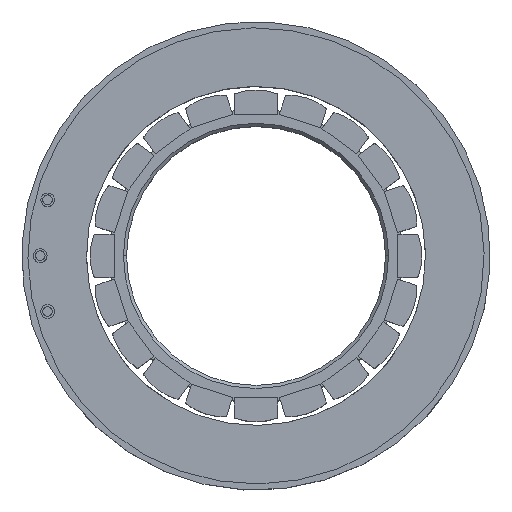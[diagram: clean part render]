
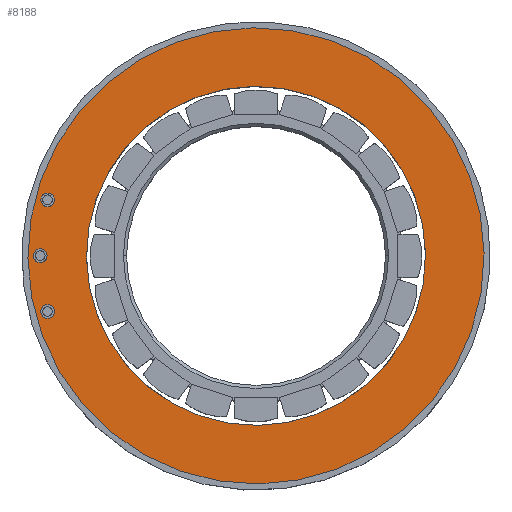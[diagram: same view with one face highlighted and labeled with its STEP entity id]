
A CAD part, top view. The second image highlights one B-rep face of the part: STEP entity #8188.
In plain terms, the highlighted planar face has unit normal (0, 0, 1).
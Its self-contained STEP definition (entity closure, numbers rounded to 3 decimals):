
#120 = AXIS2_PLACEMENT_3D ( 'NONE', #5233, #4514, #5821 ) ;
#683 = CIRCLE ( 'NONE', #120, 27.5 ) ;
#999 = DIRECTION ( 'NONE',  ( 0.872, -0.489, 0. ) ) ;
#1291 = AXIS2_PLACEMENT_3D ( 'NONE', #8305, #6756, #8347 ) ;
#1349 = DIRECTION ( 'NONE',  ( 0.872, -0.489, 0. ) ) ;
#1874 = CARTESIAN_POINT ( 'NONE',  ( -23.988, 13.447, 19.5 ) ) ;
#1911 = DIRECTION ( 'NONE',  ( 0.872, -0.489, 0. ) ) ;
#1972 = EDGE_CURVE ( 'NONE', #6643, #7744, #3062, .T. ) ;
#1987 = EDGE_CURVE ( 'NONE', #7744, #6643, #3068, .T. ) ;
#2014 = AXIS2_PLACEMENT_3D ( 'NONE', #5028, #2795, #999 ) ;
#2072 = VERTEX_POINT ( 'NONE', #1874 ) ;
#2529 = FACE_BOUND ( 'NONE', #3761, .T. ) ;
#2542 = ORIENTED_EDGE ( 'NONE', *, *, #1972, .T. ) ;
#2721 = CARTESIAN_POINT ( 'NONE',  ( 0., 0., 19.5 ) ) ;
#2795 = DIRECTION ( 'NONE',  ( 0., 0., 1. ) ) ;
#3062 = CIRCLE ( 'NONE', #8080, 37. ) ;
#3068 = CIRCLE ( 'NONE', #3789, 37. ) ;
#3258 = EDGE_LOOP ( 'NONE', ( #2542, #4125 ) ) ;
#3286 = CIRCLE ( 'NONE', #2014, 27.5 ) ;
#3701 = VERTEX_POINT ( 'NONE', #3887 ) ;
#3761 = EDGE_LOOP ( 'NONE', ( #8331, #5174 ) ) ;
#3789 = AXIS2_PLACEMENT_3D ( 'NONE', #2721, #6817, #1911 ) ;
#3887 = CARTESIAN_POINT ( 'NONE',  ( 23.988, -13.447, 19.5 ) ) ;
#3891 = CARTESIAN_POINT ( 'NONE',  ( 32.275, -18.093, 19.5 ) ) ;
#4125 = ORIENTED_EDGE ( 'NONE', *, *, #1987, .T. ) ;
#4514 = DIRECTION ( 'NONE',  ( 0., 0., 1. ) ) ;
#5028 = CARTESIAN_POINT ( 'NONE',  ( 0., 0., 19.5 ) ) ;
#5174 = ORIENTED_EDGE ( 'NONE', *, *, #6413, .F. ) ;
#5211 = EDGE_CURVE ( 'NONE', #2072, #3701, #3286, .T. ) ;
#5233 = CARTESIAN_POINT ( 'NONE',  ( 0., 0., 19.5 ) ) ;
#5821 = DIRECTION ( 'NONE',  ( 0.872, -0.489, 0. ) ) ;
#5826 = CARTESIAN_POINT ( 'NONE',  ( 0., 0., 19.5 ) ) ;
#6413 = EDGE_CURVE ( 'NONE', #3701, #2072, #683, .T. ) ;
#6624 = FACE_OUTER_BOUND ( 'NONE', #3258, .T. ) ;
#6643 = VERTEX_POINT ( 'NONE', #8235 ) ;
#6756 = DIRECTION ( 'NONE',  ( 0., 0., 1. ) ) ;
#6817 = DIRECTION ( 'NONE',  ( 0., 0., 1. ) ) ;
#7744 = VERTEX_POINT ( 'NONE', #3891 ) ;
#8080 = AXIS2_PLACEMENT_3D ( 'NONE', #5826, #8558, #1349 ) ;
#8188 = ADVANCED_FACE ( 'NONE', ( #6624, #2529 ), #8711, .T. ) ;
#8235 = CARTESIAN_POINT ( 'NONE',  ( -32.275, 18.093, 19.5 ) ) ;
#8305 = CARTESIAN_POINT ( 'NONE',  ( 0., 0., 19.5 ) ) ;
#8331 = ORIENTED_EDGE ( 'NONE', *, *, #5211, .F. ) ;
#8347 = DIRECTION ( 'NONE',  ( 0.872, -0.489, 0. ) ) ;
#8558 = DIRECTION ( 'NONE',  ( 0., 0., 1. ) ) ;
#8711 = PLANE ( 'NONE',  #1291 ) ;
